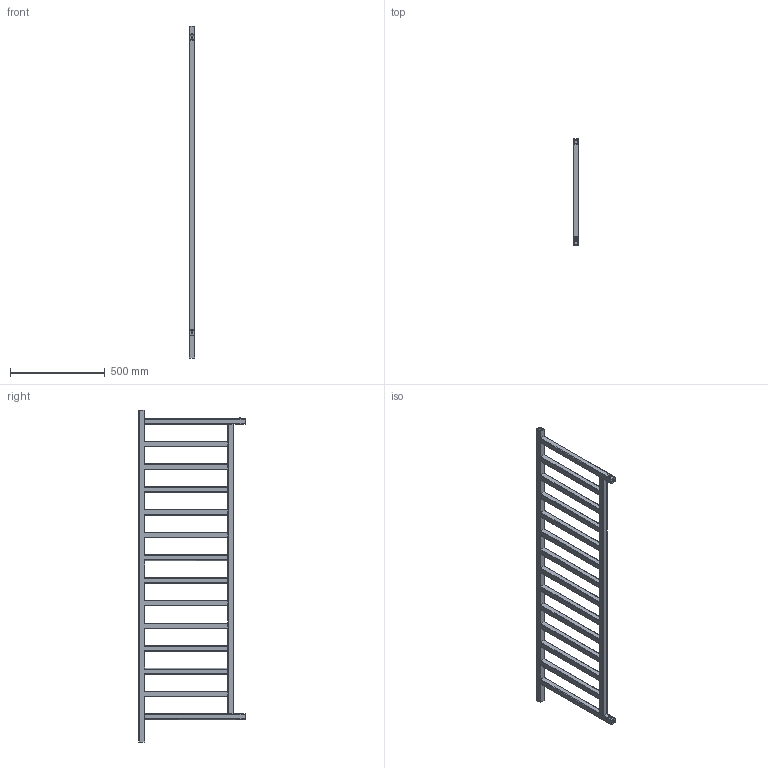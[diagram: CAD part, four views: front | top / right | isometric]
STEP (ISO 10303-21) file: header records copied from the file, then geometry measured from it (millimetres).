
FILE_DESCRIPTION((''),'2;1');
FILE_NAME('Z:\R\G\P\RGP035 - Grzejnik Simple\Work\Inventor\Marketing\AutoCad 3D\SIM-SD-1680-500-15.stp','2012-07-12T14:53:28',('KurKa'),(''),'Autodesk Inventor 2012','Autodesk Inventor 2012','');
FILE_SCHEMA(('AUTOMOTIVE_DESIGN { 1 0 10303 214 1 1 1 1 }'));
Length unit declared in the file: millimetre
Products named in the file (3): SIM-SD-1680-500-15; konsola MMT-SD-30x30x1,5-00 v1
Assembly tree (3 placements, depth 2):
  SIM-SD-1680-500-15
    SIM-SD-1680-500-15
    konsola MMT-SD-30x30x1,5-00 v1  x2
Bounding box: 30 x 560 x 1753.5 mm (x, y, z)
Volume: 8555936.3 mm3; surface area: 1106803.4 mm2
Topology: 5 solids, 5 shells, 290 faces, 712 edges, 414 vertices
Faces by surface type: plane 156, cylinder 124, bspline 4, torus 4, cone 2
Full cylindrical faces by diameter (mm): 4 x2, 4.134 x2, 10 x2, 18.631 x2
Entity records: 7720 total; most frequent: CARTESIAN_POINT 1468, DIRECTION 1342, ORIENTED_EDGE 1258, EDGE_CURVE 629, AXIS2_PLACEMENT_3D 457, VECTOR 428, LINE 428, VERTEX_POINT 363
